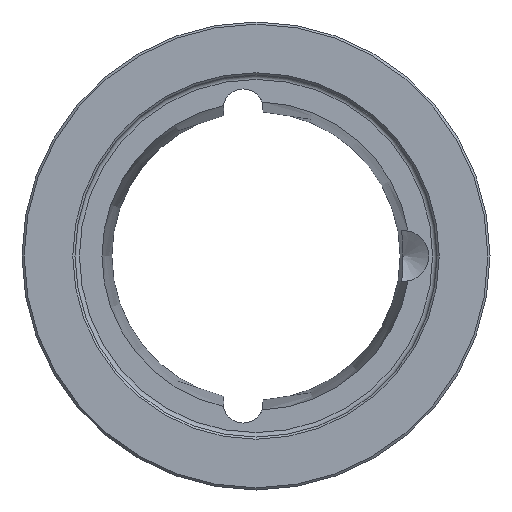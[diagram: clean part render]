
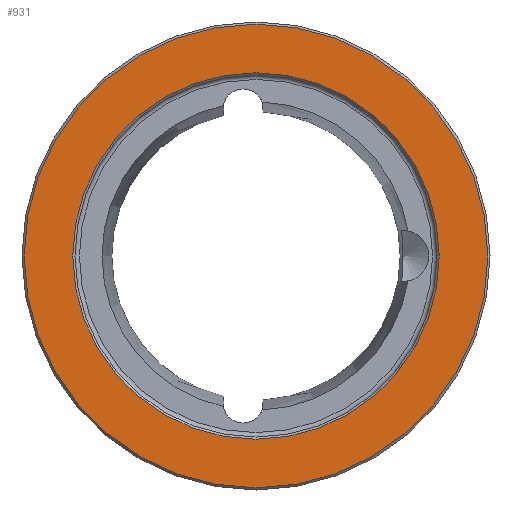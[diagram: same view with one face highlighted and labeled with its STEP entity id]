
A CAD part, left-side view. The second image highlights one B-rep face of the part: STEP entity #931.
In plain terms, the highlighted planar face has unit normal (-1, 0, 0).
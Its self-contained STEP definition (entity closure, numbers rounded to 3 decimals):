
#73=FACE_BOUND('',#278,.T.);
#132=PLANE('',#1052);
#169=FACE_OUTER_BOUND('',#277,.T.);
#277=EDGE_LOOP('',(#751));
#278=EDGE_LOOP('',(#752));
#422=CIRCLE('',#1051,41.5);
#423=CIRCLE('',#1053,52.5);
#519=VERTEX_POINT('',#1676);
#520=VERTEX_POINT('',#1679);
#615=EDGE_CURVE('',#519,#519,#422,.T.);
#616=EDGE_CURVE('',#520,#520,#423,.T.);
#751=ORIENTED_EDGE('',*,*,#616,.F.);
#752=ORIENTED_EDGE('',*,*,#615,.T.);
#931=ADVANCED_FACE('',(#169,#73),#132,.T.);
#1051=AXIS2_PLACEMENT_3D('',#1677,#1289,#1290);
#1052=AXIS2_PLACEMENT_3D('',#1678,#1291,#1292);
#1053=AXIS2_PLACEMENT_3D('',#1680,#1293,#1294);
#1289=DIRECTION('center_axis',(1.,0.,0.));
#1290=DIRECTION('ref_axis',(0.,0.,-1.));
#1291=DIRECTION('center_axis',(-1.,0.,0.));
#1292=DIRECTION('ref_axis',(0.,0.,1.));
#1293=DIRECTION('center_axis',(1.,0.,0.));
#1294=DIRECTION('ref_axis',(0.,0.,-1.));
#1676=CARTESIAN_POINT('',(-2.053,80.076,0.));
#1677=CARTESIAN_POINT('Origin',(-2.053,38.576,0.));
#1678=CARTESIAN_POINT('Origin',(-2.053,91.076,0.));
#1679=CARTESIAN_POINT('',(-2.053,91.076,0.));
#1680=CARTESIAN_POINT('Origin',(-2.053,38.576,0.));
